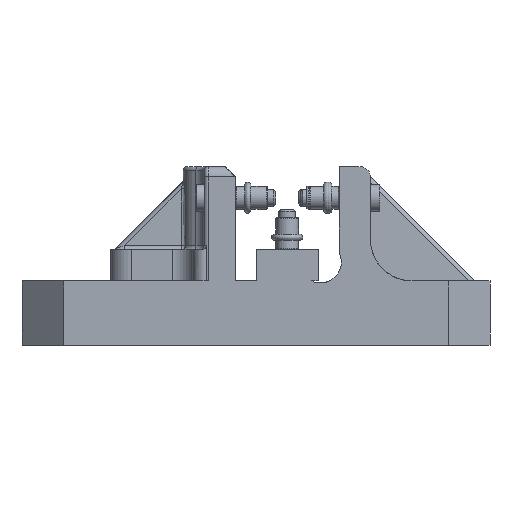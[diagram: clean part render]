
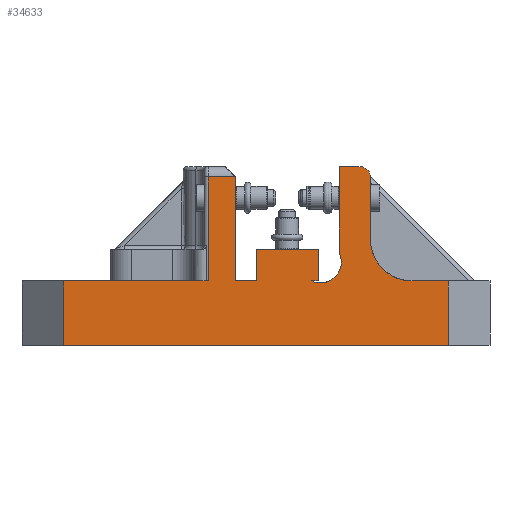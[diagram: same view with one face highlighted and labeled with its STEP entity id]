
A CAD part, front view. The second image highlights one B-rep face of the part: STEP entity #34633.
In plain terms, the highlighted planar face has unit normal (0, -1, 0).
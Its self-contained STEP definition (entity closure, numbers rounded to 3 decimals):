
#34609=AXIS2_PLACEMENT_3D('Plane Axis2P3D',#34606,#34607,#34608) ;
#24091=CARTESIAN_POINT('Vertex',(0.,-157.5,7.)) ;
#24095=CARTESIAN_POINT('Control Point',(0.,-157.5,22.)) ;
#24096=CARTESIAN_POINT('Control Point',(0.,-157.5,7.)) ;
#24097=CARTESIAN_POINT('Vertex',(0.,-157.5,22.)) ;
#24206=CARTESIAN_POINT('Vertex',(30.,-157.5,7.)) ;
#24210=CARTESIAN_POINT('Control Point',(26.641,-157.5,7.)) ;
#24211=CARTESIAN_POINT('Control Point',(30.,-157.5,7.)) ;
#24212=CARTESIAN_POINT('Vertex',(26.641,-157.5,7.)) ;
#26586=CARTESIAN_POINT('Vertex',(-25.,-157.5,7.)) ;
#28304=CARTESIAN_POINT('Vertex',(-23.,-157.5,7.)) ;
#28308=CARTESIAN_POINT('Control Point',(-23.,-157.5,57.)) ;
#28309=CARTESIAN_POINT('Control Point',(-23.,-157.5,7.)) ;
#28310=CARTESIAN_POINT('Vertex',(-23.,-157.5,57.)) ;
#29481=CARTESIAN_POINT('Control Point',(-10.,-157.5,7.)) ;
#29482=CARTESIAN_POINT('Control Point',(-10.,-157.5,57.)) ;
#29483=CARTESIAN_POINT('Vertex',(-10.,-157.5,7.)) ;
#29485=CARTESIAN_POINT('Vertex',(-10.,-157.5,57.)) ;
#29928=CARTESIAN_POINT('Control Point',(-10.,-157.5,57.)) ;
#29929=CARTESIAN_POINT('Control Point',(-23.,-157.5,57.)) ;
#31464=CARTESIAN_POINT('Control Point',(40.,-157.5,20.359)) ;
#31465=CARTESIAN_POINT('Control Point',(41.078,-157.5,18.133)) ;
#31466=CARTESIAN_POINT('Control Point',(41.468,-157.5,15.575)) ;
#31467=CARTESIAN_POINT('Control Point',(41.028,-157.5,12.967)) ;
#31468=CARTESIAN_POINT('Control Point',(38.612,-157.5,8.388)) ;
#31469=CARTESIAN_POINT('Control Point',(34.033,-157.5,5.972)) ;
#31470=CARTESIAN_POINT('Control Point',(31.425,-157.5,5.532)) ;
#31471=CARTESIAN_POINT('Control Point',(28.867,-157.5,5.922)) ;
#31472=CARTESIAN_POINT('Control Point',(26.641,-157.5,7.)) ;
#31473=CARTESIAN_POINT('Vertex',(40.,-157.5,20.359)) ;
#31516=CARTESIAN_POINT('Control Point',(0.,-157.5,7.)) ;
#31517=CARTESIAN_POINT('Control Point',(-10.,-157.5,7.)) ;
#31549=CARTESIAN_POINT('Control Point',(-23.,-157.5,7.)) ;
#31550=CARTESIAN_POINT('Control Point',(-25.,-157.5,7.)) ;
#31585=CARTESIAN_POINT('Vertex',(-92.5,-157.5,7.)) ;
#31589=CARTESIAN_POINT('Control Point',(-25.,-157.5,7.)) ;
#31590=CARTESIAN_POINT('Control Point',(-92.5,-157.5,7.)) ;
#33752=CARTESIAN_POINT('Vertex',(30.,-157.5,22.)) ;
#33756=CARTESIAN_POINT('Control Point',(30.,-157.5,22.)) ;
#33757=CARTESIAN_POINT('Control Point',(30.,-157.5,7.)) ;
#33776=CARTESIAN_POINT('Control Point',(0.,-157.5,22.)) ;
#33777=CARTESIAN_POINT('Control Point',(30.,-157.5,22.)) ;
#34098=CARTESIAN_POINT('Vertex',(50.,-157.5,62.)) ;
#34102=CARTESIAN_POINT('Control Point',(55.,-157.5,57.)) ;
#34103=CARTESIAN_POINT('Control Point',(55.,-157.5,58.571)) ;
#34104=CARTESIAN_POINT('Control Point',(54.385,-157.5,60.143)) ;
#34105=CARTESIAN_POINT('Control Point',(53.143,-157.5,61.385)) ;
#34106=CARTESIAN_POINT('Control Point',(51.571,-157.5,62.)) ;
#34107=CARTESIAN_POINT('Control Point',(50.,-157.5,62.)) ;
#34108=CARTESIAN_POINT('Vertex',(55.,-157.5,57.)) ;
#34167=CARTESIAN_POINT('Vertex',(55.,-157.5,27.)) ;
#34171=CARTESIAN_POINT('Control Point',(55.,-157.5,27.)) ;
#34172=CARTESIAN_POINT('Control Point',(55.,-157.5,57.)) ;
#34201=CARTESIAN_POINT('Vertex',(40.,-157.5,62.)) ;
#34205=CARTESIAN_POINT('Control Point',(50.,-157.5,62.)) ;
#34206=CARTESIAN_POINT('Control Point',(40.,-157.5,62.)) ;
#34261=CARTESIAN_POINT('Vertex',(75.,-157.5,7.)) ;
#34265=CARTESIAN_POINT('Control Point',(92.5,-157.5,7.)) ;
#34266=CARTESIAN_POINT('Control Point',(75.,-157.5,7.)) ;
#34267=CARTESIAN_POINT('Vertex',(92.5,-157.5,7.)) ;
#34314=CARTESIAN_POINT('Control Point',(75.,-157.5,7.)) ;
#34315=CARTESIAN_POINT('Control Point',(68.717,-157.5,7.)) ;
#34316=CARTESIAN_POINT('Control Point',(62.428,-157.5,9.46)) ;
#34317=CARTESIAN_POINT('Control Point',(57.46,-157.5,14.428)) ;
#34318=CARTESIAN_POINT('Control Point',(55.,-157.5,20.717)) ;
#34319=CARTESIAN_POINT('Control Point',(55.,-157.5,27.)) ;
#34339=CARTESIAN_POINT('Control Point',(40.,-157.5,62.)) ;
#34340=CARTESIAN_POINT('Control Point',(40.,-157.5,20.359)) ;
#34384=CARTESIAN_POINT('Vertex',(-92.5,-157.5,-24.)) ;
#34388=CARTESIAN_POINT('Control Point',(-92.5,-157.5,7.)) ;
#34389=CARTESIAN_POINT('Control Point',(-92.5,-157.5,-24.)) ;
#34424=CARTESIAN_POINT('Vertex',(92.5,-157.5,-24.)) ;
#34428=CARTESIAN_POINT('Control Point',(-92.5,-157.5,-24.)) ;
#34429=CARTESIAN_POINT('Control Point',(92.5,-157.5,-24.)) ;
#34530=CARTESIAN_POINT('Control Point',(92.5,-157.5,7.)) ;
#34531=CARTESIAN_POINT('Control Point',(92.5,-157.5,-24.)) ;
#34606=CARTESIAN_POINT('Axis2P3D Location',(-10.,-157.5,7.)) ;
#34607=DIRECTION('Axis2P3D Direction',(0.,1.,0.)) ;
#34608=DIRECTION('Axis2P3D XDirection',(0.,0.,1.)) ;
#34612=ORIENTED_EDGE('',*,*,#29930,.T.) ;
#34613=ORIENTED_EDGE('',*,*,#28312,.T.) ;
#34614=ORIENTED_EDGE('',*,*,#31551,.T.) ;
#34615=ORIENTED_EDGE('',*,*,#31591,.T.) ;
#34616=ORIENTED_EDGE('',*,*,#34390,.T.) ;
#34617=ORIENTED_EDGE('',*,*,#34430,.T.) ;
#34618=ORIENTED_EDGE('',*,*,#34532,.F.) ;
#34619=ORIENTED_EDGE('',*,*,#34269,.T.) ;
#34620=ORIENTED_EDGE('',*,*,#34320,.T.) ;
#34621=ORIENTED_EDGE('',*,*,#34173,.T.) ;
#34622=ORIENTED_EDGE('',*,*,#34110,.T.) ;
#34623=ORIENTED_EDGE('',*,*,#34207,.T.) ;
#34624=ORIENTED_EDGE('',*,*,#34341,.T.) ;
#34625=ORIENTED_EDGE('',*,*,#31475,.T.) ;
#34626=ORIENTED_EDGE('',*,*,#24214,.T.) ;
#34627=ORIENTED_EDGE('',*,*,#33758,.F.) ;
#34628=ORIENTED_EDGE('',*,*,#33778,.F.) ;
#34629=ORIENTED_EDGE('',*,*,#24099,.T.) ;
#34630=ORIENTED_EDGE('',*,*,#31518,.T.) ;
#34631=ORIENTED_EDGE('',*,*,#29487,.T.) ;
#34633=ADVANCED_FACE('EGT_049_B8_0155_0571207_Flanschplatte_SW50_3D_SET 1.1',(#34632),#34610,.F.) ;
#24094=B_SPLINE_CURVE_WITH_KNOTS('',1,(#24095,#24096),.UNSPECIFIED.,.F.,.U.,(2,2),(0.,15.),.UNSPECIFIED.) ;
#24209=B_SPLINE_CURVE_WITH_KNOTS('',1,(#24210,#24211),.UNSPECIFIED.,.F.,.U.,(2,2),(0.,3.359),.UNSPECIFIED.) ;
#28307=B_SPLINE_CURVE_WITH_KNOTS('',1,(#28308,#28309),.UNSPECIFIED.,.F.,.U.,(2,2),(0.,1.),.UNSPECIFIED.) ;
#29480=B_SPLINE_CURVE_WITH_KNOTS('',1,(#29481,#29482),.UNSPECIFIED.,.F.,.U.,(2,2),(0.,50.),.UNSPECIFIED.) ;
#29927=B_SPLINE_CURVE_WITH_KNOTS('',1,(#29928,#29929),.UNSPECIFIED.,.F.,.U.,(2,2),(0.,1.),.UNSPECIFIED.) ;
#31463=B_SPLINE_CURVE_WITH_KNOTS('',5,(#31464,#31465,#31466,#31467,#31468,#31469,#31470,#31471,#31472),.UNSPECIFIED.,.F.,.U.,(6,3,6),(0.,1.236,2.473),.UNSPECIFIED.) ;
#31515=B_SPLINE_CURVE_WITH_KNOTS('',1,(#31516,#31517),.UNSPECIFIED.,.F.,.U.,(2,2),(0.,10.),.UNSPECIFIED.) ;
#31548=B_SPLINE_CURVE_WITH_KNOTS('',1,(#31549,#31550),.UNSPECIFIED.,.F.,.U.,(2,2),(0.,2.),.UNSPECIFIED.) ;
#31588=B_SPLINE_CURVE_WITH_KNOTS('',1,(#31589,#31590),.UNSPECIFIED.,.F.,.U.,(2,2),(0.,67.5),.UNSPECIFIED.) ;
#33755=B_SPLINE_CURVE_WITH_KNOTS('',1,(#33756,#33757),.UNSPECIFIED.,.F.,.U.,(2,2),(0.,15.),.UNSPECIFIED.) ;
#33775=B_SPLINE_CURVE_WITH_KNOTS('',1,(#33776,#33777),.UNSPECIFIED.,.F.,.U.,(2,2),(0.,30.),.UNSPECIFIED.) ;
#34101=B_SPLINE_CURVE_WITH_KNOTS('',5,(#34102,#34103,#34104,#34105,#34106,#34107),.UNSPECIFIED.,.F.,.U.,(6,6),(0.,1.571),.UNSPECIFIED.) ;
#34170=B_SPLINE_CURVE_WITH_KNOTS('',1,(#34171,#34172),.UNSPECIFIED.,.F.,.U.,(2,2),(0.,30.),.UNSPECIFIED.) ;
#34204=B_SPLINE_CURVE_WITH_KNOTS('',1,(#34205,#34206),.UNSPECIFIED.,.F.,.U.,(2,2),(0.,10.),.UNSPECIFIED.) ;
#34264=B_SPLINE_CURVE_WITH_KNOTS('',1,(#34265,#34266),.UNSPECIFIED.,.F.,.U.,(2,2),(0.,17.5),.UNSPECIFIED.) ;
#34313=B_SPLINE_CURVE_WITH_KNOTS('',5,(#34314,#34315,#34316,#34317,#34318,#34319),.UNSPECIFIED.,.F.,.U.,(6,6),(0.,1.571),.UNSPECIFIED.) ;
#34338=B_SPLINE_CURVE_WITH_KNOTS('',1,(#34339,#34340),.UNSPECIFIED.,.F.,.U.,(2,2),(0.,41.641),.UNSPECIFIED.) ;
#34387=B_SPLINE_CURVE_WITH_KNOTS('',1,(#34388,#34389),.UNSPECIFIED.,.F.,.U.,(2,2),(0.,31.),.UNSPECIFIED.) ;
#34427=B_SPLINE_CURVE_WITH_KNOTS('',1,(#34428,#34429),.UNSPECIFIED.,.F.,.U.,(2,2),(0.,185.),.UNSPECIFIED.) ;
#34529=B_SPLINE_CURVE_WITH_KNOTS('',1,(#34530,#34531),.UNSPECIFIED.,.F.,.U.,(2,2),(0.,31.),.UNSPECIFIED.) ;
#24099=EDGE_CURVE('',#24098,#24092,#24094,.T.) ;
#24214=EDGE_CURVE('',#24213,#24207,#24209,.T.) ;
#28312=EDGE_CURVE('',#28311,#28305,#28307,.T.) ;
#29487=EDGE_CURVE('',#29484,#29486,#29480,.T.) ;
#29930=EDGE_CURVE('',#29486,#28311,#29927,.T.) ;
#31475=EDGE_CURVE('',#31474,#24213,#31463,.T.) ;
#31518=EDGE_CURVE('',#24092,#29484,#31515,.T.) ;
#31551=EDGE_CURVE('',#28305,#26587,#31548,.T.) ;
#31591=EDGE_CURVE('',#26587,#31586,#31588,.T.) ;
#33758=EDGE_CURVE('',#33753,#24207,#33755,.T.) ;
#33778=EDGE_CURVE('',#24098,#33753,#33775,.T.) ;
#34110=EDGE_CURVE('',#34109,#34099,#34101,.T.) ;
#34173=EDGE_CURVE('',#34168,#34109,#34170,.T.) ;
#34207=EDGE_CURVE('',#34099,#34202,#34204,.T.) ;
#34269=EDGE_CURVE('',#34268,#34262,#34264,.T.) ;
#34320=EDGE_CURVE('',#34262,#34168,#34313,.T.) ;
#34341=EDGE_CURVE('',#34202,#31474,#34338,.T.) ;
#34390=EDGE_CURVE('',#31586,#34385,#34387,.T.) ;
#34430=EDGE_CURVE('',#34385,#34425,#34427,.T.) ;
#34532=EDGE_CURVE('',#34268,#34425,#34529,.T.) ;
#34611=EDGE_LOOP('',(#34612,#34613,#34614,#34615,#34616,#34617,#34618,#34619,#34620,#34621,#34622,#34623,#34624,#34625,#34626,#34627,#34628,#34629,#34630,#34631)) ;
#34632=FACE_OUTER_BOUND('',#34611,.T.) ;
#34610=PLANE('',#34609) ;
#24092=VERTEX_POINT('',#24091) ;
#24098=VERTEX_POINT('',#24097) ;
#24207=VERTEX_POINT('',#24206) ;
#24213=VERTEX_POINT('',#24212) ;
#26587=VERTEX_POINT('',#26586) ;
#28305=VERTEX_POINT('',#28304) ;
#28311=VERTEX_POINT('',#28310) ;
#29484=VERTEX_POINT('',#29483) ;
#29486=VERTEX_POINT('',#29485) ;
#31474=VERTEX_POINT('',#31473) ;
#31586=VERTEX_POINT('',#31585) ;
#33753=VERTEX_POINT('',#33752) ;
#34099=VERTEX_POINT('',#34098) ;
#34109=VERTEX_POINT('',#34108) ;
#34168=VERTEX_POINT('',#34167) ;
#34202=VERTEX_POINT('',#34201) ;
#34262=VERTEX_POINT('',#34261) ;
#34268=VERTEX_POINT('',#34267) ;
#34385=VERTEX_POINT('',#34384) ;
#34425=VERTEX_POINT('',#34424) ;
